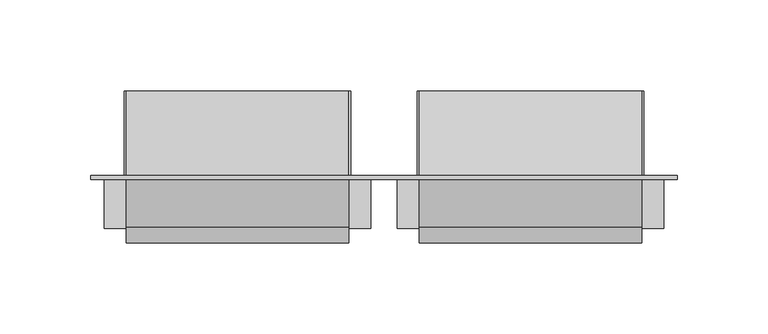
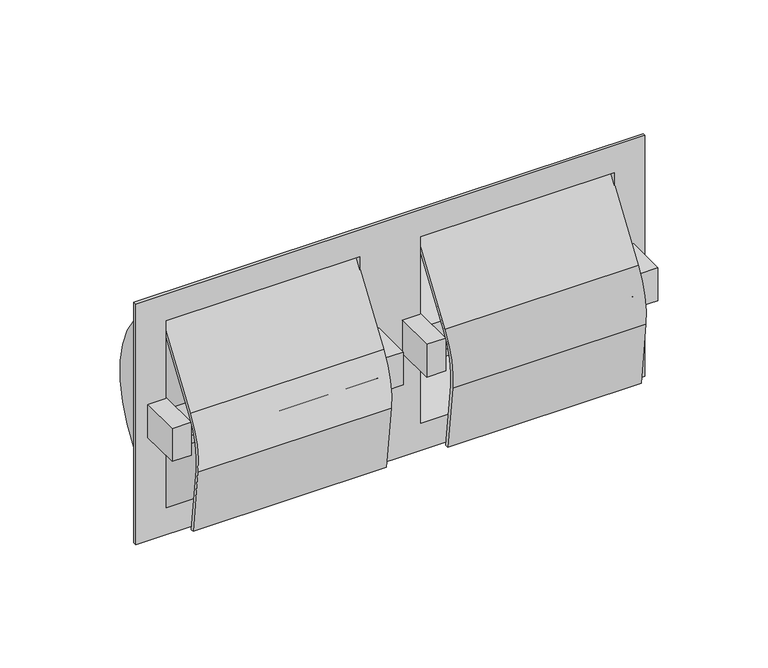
"""IFC4 building model written with IfcOpenShell, lengths in millimetres: proxy geometry, Toilet Roll Dispenser_Metlam_Double_Recessed_Hooded : 322w x 84d x 161h (ML263B)."""

from ifc_helpers import new_model, si_unit, point, frame, frame_2d, origin, place, context, project, spatial, polyline, circle_curve, trimmed, segment, composite_curve, outline, extrude, source, transform, mapped, element, save
from ifc_brep_helpers import plane_surface, cylinder_surface, revolved_surface, advanced_brep


def specialty_equipment_35d2bbda(model_context):
    return source(origin(), model_context, "Body", "SolidModel", [
        advanced_brep(
        [(161.0, -49.0, 665.5), (-161.0, -49.0, 665.5), (-161.0, -49.0, 504.5), (161.0, -49.0, 504.5), (-19.3853536, -49.0, 647.4824309), (-19.3853536, -49.0, 522.5175691), (-141.6146464, -49.0, 522.5389172), (-141.6146464, -49.0, 647.4824309), (141.6146464, -49.0, 647.4824309), (141.6146464, -49.0, 522.5175691), (19.3853536, -49.0, 522.5389172), (19.3853536, -49.0, 647.4824309), (161.0, -47.0, 665.5), (161.0, -47.0, 504.5), (-161.0, -47.0, 504.5), (-161.0, -47.0, 665.5), (141.6146464, -47.0, 648.948314), (19.3853536, -47.0, 648.948314), (18.4, -47.0, 648.948314), (18.4, -47.0, 521.051686), (19.3853536, -47.0, 521.051686), (141.6146464, -47.0, 521.051686), (142.6, -47.0, 521.051686), (142.6, -47.0, 648.948314), (-141.6146464, -47.0, 521.051686), (-19.3853536, -47.0, 521.051686), (-18.4, -47.0, 521.051686), (-18.4, -47.0, 648.948314), (-19.3853536, -47.0, 648.948314), (-141.6146464, -47.0, 648.948314), (-142.6, -47.0, 648.948314), (-142.6, -47.0, 521.051686)],
        [
            (0, 1),
            (1, 2),
            (2, 3),
            (3, 0),
            (4, 5),
            (5, 6),
            (6, 7),
            (7, 4),
            (8, 9),
            (9, 10),
            (10, 11),
            (11, 8),
            (12, 13),
            (13, 14),
            (14, 15),
            (15, 12),
            (16, 17),
            (17, 18),
            (18, 19),
            (19, 20),
            (20, 21),
            (21, 22),
            (22, 23),
            (23, 16),
            (24, 25),
            (25, 26),
            (26, 27),
            (27, 28),
            (28, 29),
            (29, 30),
            (30, 31),
            (31, 24),
            (0, 12),
            (15, 1),
            (14, 2),
            (13, 3),
            (4, 5, circle_curve(frame((-19.3853536, -67.0041156, 585.0), z_axis=(-1.0, 0.0, 0.0), x_axis=(0.0, 0.0, 1.0)), 65.0041156)),
            (6, 7, circle_curve(frame((-141.6146464, -67.0041156, 585.0), z_axis=(1.0, 0.0, 0.0), x_axis=(0.0, 0.0, 1.0)), 65.0041156)),
            (8, 9, circle_curve(frame((141.6146464, -67.0041156, 585.0), z_axis=(-1.0, 0.0, 0.0), x_axis=(0.0, 0.0, 1.0)), 65.0041156)),
            (10, 11, circle_curve(frame((19.3853536, -67.0041156, 585.0), z_axis=(1.0, 0.0, 0.0), x_axis=(0.0, 0.0, 1.0)), 65.0041156)),
            (30, 31, circle_curve(frame((-142.6, -67.0041156, 585.0), z_axis=(-1.0, 0.0, 0.0), x_axis=(0.0, 0.0, 1.0)), 67.0041156)),
            (26, 27, circle_curve(frame((-18.4, -67.0041156, 585.0), z_axis=(1.0, 0.0, 0.0), x_axis=(0.0, 0.0, 1.0)), 67.0041156)),
            (22, 23, circle_curve(frame((142.6, -67.0041156, 585.0), z_axis=(1.0, 0.0, 0.0), x_axis=(0.0, 0.0, 1.0)), 67.0041156)),
            (18, 19, circle_curve(frame((18.4, -67.0041156, 585.0), z_axis=(-1.0, 0.0, 0.0), x_axis=(0.0, 0.0, 1.0)), 67.0041156)),
            (16, 21, circle_curve(frame((141.6146464, -67.0041156, 585.0), z_axis=(-1.0, 0.0, 0.0), x_axis=(0.0, 0.0, 1.0)), 67.0041156)),
            (20, 17, circle_curve(frame((19.3853536, -67.0041156, 585.0), z_axis=(1.0, 0.0, 0.0), x_axis=(0.0, 0.0, 1.0)), 67.0041156)),
            (25, 28, circle_curve(frame((-19.3853536, -67.0041156, 585.0), z_axis=(1.0, 0.0, 0.0), x_axis=(0.0, 0.0, 1.0)), 67.0041156)),
            (24, 29, circle_curve(frame((-141.6146464, -67.0041156, 585.0), z_axis=(1.0, 0.0, 0.0), x_axis=(0.0, 0.0, 1.0)), 67.0041156)),
        ],
        [
            plane_surface(frame((-161.0, -49.0, 665.5), z_axis=(0.0, -1.0, 0.0), x_axis=(-1.0, 0.0, 0.0))),
            plane_surface(frame((-161.0, -47.0, 665.5), z_axis=(0.0, 1.0, 0.0), x_axis=(1.0, 0.0, 0.0))),
            plane_surface(frame((161.0, -49.0, 665.5), z_axis=(0.0, 0.0, 1.0), x_axis=(0.0, 1.0, 0.0))),
            plane_surface(frame((-161.0, -49.0, 665.5), z_axis=(-1.0, 0.0, 0.0), x_axis=(0.0, 1.0, 0.0))),
            plane_surface(frame((-161.0, -49.0, 504.5), z_axis=(0.0, 0.0, -1.0), x_axis=(0.0, 1.0, 0.0))),
            plane_surface(frame((161.0, -49.0, 504.5), z_axis=(1.0, 0.0, 0.0), x_axis=(0.0, 1.0, 0.0))),
            plane_surface(frame((-19.3853536, -49.0, 647.4824309), z_axis=(-1.0, 0.0, 0.0), x_axis=(0.0, 1.0, 0.0))),
            plane_surface(frame((-141.6146464, -49.0, 522.5175691), z_axis=(1.0, 0.0, 0.0), x_axis=(0.0, 1.0, 0.0))),
            plane_surface(frame((141.6146464, -49.0, 647.4824309), z_axis=(-1.0, 0.0, 0.0), x_axis=(0.0, 1.0, 0.0))),
            plane_surface(frame((19.3853536, -49.0, 522.5175691), z_axis=(1.0, 0.0, 0.0), x_axis=(0.0, 1.0, 0.0))),
            plane_surface(frame((-142.6, -47.0, 521.051686), z_axis=(-1.0, 0.0, 0.0), x_axis=(0.0, 0.0, 1.0))),
            plane_surface(frame((-18.4, -47.0, 521.051686), z_axis=(1.0, 0.0, 0.0), x_axis=(0.0, 0.0, -1.0))),
            plane_surface(frame((142.6, -67.0041156, 652.0041156), z_axis=(1.0, 0.0, 0.0), x_axis=(0.0, -1.0, 0.0))),
            plane_surface(frame((18.4, -67.0041156, 652.0041156), z_axis=(-1.0, 0.0, 0.0), x_axis=(0.0, 1.0, 0.0))),
            revolved_surface(polyline([(141.6146464, -67.0041156, 650.0041156), (19.385353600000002, -67.0041156, 650.0041156)]), (141.6146464, -67.0041156, 585.0), (1.0, 0.0, 0.0)),
            cylinder_surface(frame((141.6146464, -67.0041156, 585.0), z_axis=(-1.0, 0.0, 0.0), x_axis=(0.0, 0.0, 1.0)), 67.0041156),
            cylinder_surface(frame((142.6, -67.0041156, 585.0), z_axis=(-1.0, 0.0, 0.0), x_axis=(0.0, 0.0, 1.0)), 67.0041156),
            cylinder_surface(frame((19.3853536, -67.0041156, 585.0), z_axis=(-1.0, 0.0, 0.0), x_axis=(0.0, 0.0, 1.0)), 67.0041156),
            cylinder_surface(frame((-19.3853536, -67.0041156, 585.0), z_axis=(1.0, 0.0, 0.0), x_axis=(0.0, 0.0, 1.0)), 67.0041156),
            cylinder_surface(frame((-141.6146464, -67.0041156, 585.0), z_axis=(1.0, 0.0, 0.0), x_axis=(0.0, 0.0, 1.0)), 67.0041156),
            revolved_surface(polyline([(-141.6146464, -67.0041156, 650.0041156), (-19.385353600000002, -67.0041156, 650.0041156)]), (-141.6146464, -67.0041156, 585.0), (-1.0, 0.0, 0.0)),
            cylinder_surface(frame((-142.6, -67.0041156, 585.0), z_axis=(1.0, 0.0, 0.0), x_axis=(0.0, 0.0, 1.0)), 67.0041156),
        ],
        [
            (0, [[1, 2, 3, 4], [5, 6, 7, 8], [9, 10, 11, 12]]),
            (1, [[13, 14, 15, 16], [17, 18, 19, 20, 21, 22, 23, 24], [25, 26, 27, 28, 29, 30, 31, 32]]),
            (2, [[-1, 33, -16, 34]]),
            (3, [[-2, -34, -15, 35]]),
            (4, [[-3, -35, -14, 36]]),
            (5, [[-4, -36, -13, -33]]),
            (6, [[-5, 37]]),
            (7, [[-7, 38]]),
            (8, [[-9, 39]]),
            (9, [[-11, 40]]),
            (10, [[41, -31]]),
            (11, [[42, -27]]),
            (12, [[43, -23]]),
            (13, [[44, -19]]),
            (14, [[-12, -40, -10, -39]]),
            (15, [[-17, 45, -21, 46]]),
            (16, [[-43, -22, -45, -24]]),
            (17, [[-44, -18, -46, -20]]),
            (18, [[-42, -26, 47, -28]]),
            (19, [[-25, 48, -29, -47]]),
            (20, [[-8, -38, -6, -37]]),
            (21, [[-41, -30, -48, -32]]),
        ],
    ),
        extrude(outline(composite_curve([segment(trimmed(circle_curve(frame_2d((-34.0, 573.2090239)), 48.0), [point((-73.5531086, 600.4037219))], [point((-81.6422153, 567.3592954))], True, "CARTESIAN"), True, "CONTINUOUS"), segment(polyline([(-81.6422153, 567.3592954), (-76.3797555, 524.5), (-78.3947752, 524.5), (-83.6273076, 567.1155567)]), True, "CONTINUOUS"), segment(trimmed(circle_curve(frame_2d((-34.0, 573.2090239)), 50.0), [point((-83.6273076, 567.1155567))], [point((-75.2011548, 601.5368343))], False, "CARTESIAN"), True, "CONTINUOUS"), segment(polyline([(-75.2011548, 601.5368343), (-45.0205739, 645.4327363), (-43.3725277, 644.2996238), (-73.5531086, 600.4037219)]), True, "CONTINUOUS")], self_intersect=False)), frame((19.3853536, 0.0, 0.0), z_axis=(1.0, 0.0, 0.0), x_axis=(0.0, 1.0, 0.0)), (0.0, 0.0, 1.0), 122.2292927),
        extrude(outline(polyline([(153.6248355, -49.0), (153.6248355, -76.0), (141.6146464, -76.0), (141.6146464, -49.0), (153.6248355, -49.0)])), frame((0.0, 0.0, 574.0), z_axis=(0.0, 0.0, 1.0), x_axis=(1.0, 0.0, 0.0)), (0.0, 0.0, 1.0), 22.0),
        extrude(outline(polyline([(7.3751645, -76.0), (7.3751645, -49.0), (19.3853536, -49.0), (19.3853536, -76.0), (7.3751645, -76.0)])), frame((0.0, 0.0, 574.0), z_axis=(0.0, 0.0, 1.0), x_axis=(1.0, 0.0, 0.0)), (0.0, 0.0, 1.0), 22.0),
        advanced_brep(
        [(141.6146464, -62.3201367, 585.0), (141.6146464, -73.3201367, 585.0), (141.6146464, -51.3201367, 585.0), (80.5, -73.3201367, 585.0), (80.5, -51.3201367, 585.0), (80.5, -71.8201367, 585.0), (80.5, -52.8201367, 585.0), (19.3853536, -71.8201367, 585.0), (19.3853536, -52.8201367, 585.0), (19.3853536, -62.3201367, 585.0)],
        [
            (0, 1),
            (1, 2, circle_curve(frame((141.6146464, -62.3201367, 585.0), z_axis=(1.0, 0.0, 0.0), x_axis=(0.0, -1.0, 0.0)), 11.0)),
            (2, 0),
            (2, 1, circle_curve(frame((141.6146464, -62.3201367, 585.0), z_axis=(1.0, 0.0, 0.0), x_axis=(0.0, -1.0, 0.0)), 11.0)),
            (1, 3),
            (3, 4, circle_curve(frame((80.5, -62.3201367, 585.0), z_axis=(1.0, 0.0, 0.0), x_axis=(0.0, -1.0, 0.0)), 11.0)),
            (4, 2),
            (4, 3, circle_curve(frame((80.5, -62.3201367, 585.0), z_axis=(1.0, 0.0, 0.0), x_axis=(0.0, -1.0, 0.0)), 11.0)),
            (3, 5),
            (5, 6, circle_curve(frame((80.5, -62.3201367, 585.0), z_axis=(1.0, 0.0, 0.0), x_axis=(0.0, -1.0, 0.0)), 9.5)),
            (6, 4),
            (6, 5, circle_curve(frame((80.5, -62.3201367, 585.0), z_axis=(1.0, 0.0, 0.0), x_axis=(0.0, -1.0, 0.0)), 9.5)),
            (5, 7),
            (7, 8, circle_curve(frame((19.3853536, -62.3201367, 585.0), z_axis=(1.0, 0.0, 0.0), x_axis=(0.0, -1.0, 0.0)), 9.5)),
            (8, 6),
            (8, 7, circle_curve(frame((19.3853536, -62.3201367, 585.0), z_axis=(1.0, 0.0, 0.0), x_axis=(0.0, -1.0, 0.0)), 9.5)),
            (7, 9),
            (9, 8),
        ],
        [
            plane_surface(frame((141.6146464, -62.3201367, 585.0), z_axis=(1.0, 0.0, 0.0), x_axis=(0.0, -1.0, 0.0))),
            cylinder_surface(frame((98.0, -62.3201367, 585.0), z_axis=(1.0, 0.0, 0.0), x_axis=(0.0, -1.0, 0.0)), 11.0),
            plane_surface(frame((80.5, -62.3201367, 585.0), z_axis=(-1.0, 0.0, 0.0), x_axis=(0.0, -1.0, 0.0))),
            cylinder_surface(frame((98.0, -62.3201367, 585.0), z_axis=(1.0, 0.0, 0.0), x_axis=(0.0, -1.0, 0.0)), 9.5),
            plane_surface(frame((19.3853536, -62.3201367, 585.0), z_axis=(-1.0, 0.0, 0.0), x_axis=(0.0, -1.0, 0.0))),
        ],
        [
            (0, [[1, 2, 3]]),
            (0, [[-3, 4, -1]]),
            (1, [[-2, 5, 6, 7]]),
            (1, [[-4, -7, 8, -5]]),
            (2, [[-6, 9, 10, 11]]),
            (2, [[-8, -11, 12, -9]]),
            (3, [[-10, 13, 14, 15]]),
            (3, [[-12, -15, 16, -13]]),
            (4, [[-14, 17, 18]]),
            (4, [[-16, -18, -17]]),
        ],
    ),
        extrude(outline(composite_curve([segment(trimmed(circle_curve(frame_2d((-34.0, 573.2090239)), 48.0), [point((-73.5531086, 600.4037219))], [point((-81.6422153, 567.3592954))], True, "CARTESIAN"), True, "CONTINUOUS"), segment(polyline([(-81.6422153, 567.3592954), (-76.3797555, 524.5), (-78.3947752, 524.5), (-83.6273076, 567.1155567)]), True, "CONTINUOUS"), segment(trimmed(circle_curve(frame_2d((-34.0, 573.2090239)), 50.0), [point((-83.6273076, 567.1155567))], [point((-75.2011548, 601.5368343))], False, "CARTESIAN"), True, "CONTINUOUS"), segment(polyline([(-75.2011548, 601.5368343), (-45.0205739, 645.4327363), (-43.3725277, 644.2996238), (-73.5531086, 600.4037219)]), True, "CONTINUOUS")], self_intersect=False)), frame((-141.6146464, 0.0, 0.0), z_axis=(1.0, 0.0, 0.0), x_axis=(0.0, 1.0, 0.0)), (0.0, 0.0, 1.0), 122.2292927),
        extrude(outline(polyline([(-153.6248355, -76.0), (-153.6248355, -49.0), (-141.6146464, -49.0), (-141.6146464, -76.0), (-153.6248355, -76.0)])), frame((0.0, 0.0, 574.0), z_axis=(0.0, 0.0, 1.0), x_axis=(1.0, 0.0, 0.0)), (0.0, 0.0, 1.0), 22.0),
        extrude(outline(polyline([(-7.3751645, -49.0), (-7.3751645, -76.0), (-19.3853536, -76.0), (-19.3853536, -49.0), (-7.3751645, -49.0)])), frame((0.0, 0.0, 574.0), z_axis=(0.0, 0.0, 1.0), x_axis=(1.0, 0.0, 0.0)), (0.0, 0.0, 1.0), 22.0),
        advanced_brep(
        [(-141.6146464, -51.3201367, 585.0), (-141.6146464, -73.3201367, 585.0), (-141.6146464, -62.3201367, 585.0), (-80.5, -51.3201367, 585.0), (-80.5, -73.3201367, 585.0), (-80.5, -52.8201367, 585.0), (-80.5, -71.8201367, 585.0), (-19.3853536, -52.8201367, 585.0), (-19.3853536, -71.8201367, 585.0), (-19.3853536, -62.3201367, 585.0)],
        [
            (0, 1, circle_curve(frame((-141.6146464, -62.3201367, 585.0), z_axis=(-1.0, 0.0, 0.0), x_axis=(0.0, -1.0, 0.0)), 11.0)),
            (1, 2),
            (2, 0),
            (1, 0, circle_curve(frame((-141.6146464, -62.3201367, 585.0), z_axis=(-1.0, 0.0, 0.0), x_axis=(0.0, -1.0, 0.0)), 11.0)),
            (3, 4, circle_curve(frame((-80.5, -62.3201367, 585.0), z_axis=(-1.0, 0.0, 0.0), x_axis=(0.0, -1.0, 0.0)), 11.0)),
            (4, 1),
            (0, 3),
            (4, 3, circle_curve(frame((-80.5, -62.3201367, 585.0), z_axis=(-1.0, 0.0, 0.0), x_axis=(0.0, -1.0, 0.0)), 11.0)),
            (5, 6, circle_curve(frame((-80.5, -62.3201367, 585.0), z_axis=(-1.0, 0.0, 0.0), x_axis=(0.0, -1.0, 0.0)), 9.5)),
            (6, 4),
            (3, 5),
            (6, 5, circle_curve(frame((-80.5, -62.3201367, 585.0), z_axis=(-1.0, 0.0, 0.0), x_axis=(0.0, -1.0, 0.0)), 9.5)),
            (7, 8, circle_curve(frame((-19.3853536, -62.3201367, 585.0), z_axis=(-1.0, 0.0, 0.0), x_axis=(0.0, -1.0, 0.0)), 9.5)),
            (8, 6),
            (5, 7),
            (8, 7, circle_curve(frame((-19.3853536, -62.3201367, 585.0), z_axis=(-1.0, 0.0, 0.0), x_axis=(0.0, -1.0, 0.0)), 9.5)),
            (9, 8),
            (7, 9),
        ],
        [
            plane_surface(frame((-141.6146464, -62.3201367, 585.0), z_axis=(-1.0, 0.0, 0.0), x_axis=(0.0, -1.0, 0.0))),
            cylinder_surface(frame((-98.0, -62.3201367, 585.0), z_axis=(1.0, 0.0, 0.0), x_axis=(0.0, -1.0, 0.0)), 11.0),
            plane_surface(frame((-80.5, -62.3201367, 585.0), z_axis=(1.0, 0.0, 0.0), x_axis=(0.0, -1.0, 0.0))),
            cylinder_surface(frame((-98.0, -62.3201367, 585.0), z_axis=(1.0, 0.0, 0.0), x_axis=(0.0, -1.0, 0.0)), 9.5),
            plane_surface(frame((-19.3853536, -62.3201367, 585.0), z_axis=(1.0, 0.0, 0.0), x_axis=(0.0, -1.0, 0.0))),
        ],
        [
            (0, [[1, 2, 3]]),
            (0, [[4, -3, -2]]),
            (1, [[5, 6, -1, 7]]),
            (1, [[8, -7, -4, -6]]),
            (2, [[9, 10, -5, 11]]),
            (2, [[12, -11, -8, -10]]),
            (3, [[13, 14, -9, 15]]),
            (3, [[16, -15, -12, -14]]),
            (4, [[17, -13, 18]]),
            (4, [[-18, -16, -17]]),
        ],
    ),
    ])


if __name__ == "__main__":
    model = new_model("IFC4")
    model_context = context("Model", 3, world=origin())
    ifc_project = project(units=[si_unit("LENGTHUNIT", "METRE", prefix="MILLI")], contexts=[model_context])
    site = spatial("IfcSite", under=ifc_project)
    building = spatial("IfcBuilding", under=site)
    placement = place(None, origin())
    specialty_equipment_shape = specialty_equipment_35d2bbda(model_context)
    element("IfcBuildingElementProxy", 1, Name="Toilet Roll Dispenser_Metlam_Double_Recessed_Hooded : 322w x 84d x 161h (ML263B)", ObjectType="Toilet Roll Dispenser_Metlam_Double_Recessed_Hooded : 322w x 84d x 161h (ML263B)", at=placement, inside=building, context=model_context, shape_type="MappedRepresentation", body=[
        mapped(specialty_equipment_shape, transform((0.0, 0.0, 0.0), x_axis=(1.0, 0.0, 0.0), y_axis=(0.0, 1.0, 0.0), z_axis=(0.0, 0.0, 1.0))),
    ])
    save(model, "model.ifc")
